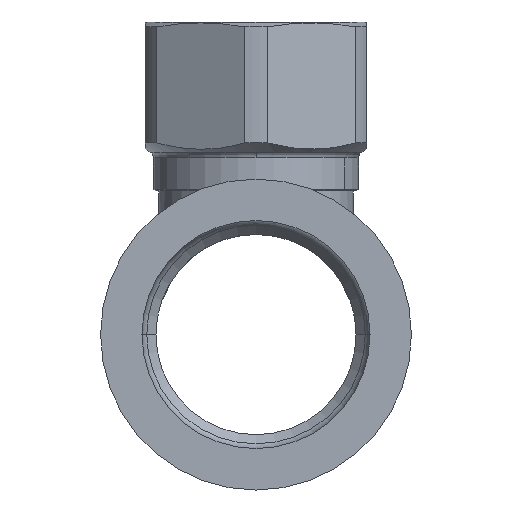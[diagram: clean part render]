
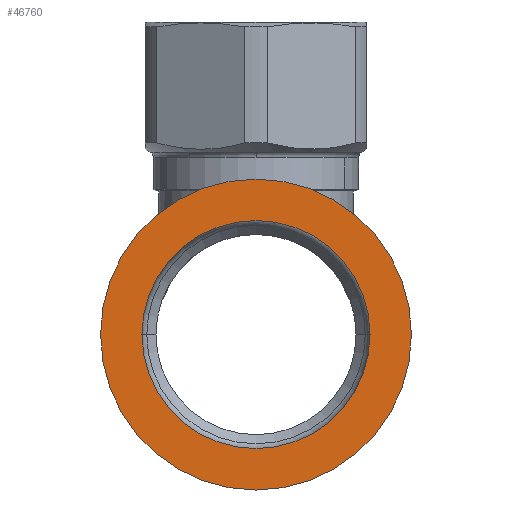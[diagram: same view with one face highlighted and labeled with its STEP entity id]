
A CAD part, left-side view. The second image highlights one B-rep face of the part: STEP entity #46760.
In plain terms, the highlighted planar face has unit normal (-1, 0, 0).
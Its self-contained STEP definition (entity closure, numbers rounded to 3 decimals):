
#46280=CARTESIAN_POINT('',(22.914,53.188,0.)
);
#46290=VERTEX_POINT('',#46280);
#46320=CARTESIAN_POINT('',(22.914,39.288,0.));
#46330=DIRECTION('',(-1.,0.,0.));
#46340=DIRECTION('',(0.,1.,0.));
#46350=AXIS2_PLACEMENT_3D('',#46320,#46330,#46340);
#46360=CIRCLE('',#46350,13.9);
#46370=CARTESIAN_POINT('',(22.914,25.388,0.
));
#46380=VERTEX_POINT('',#46370);
#46390=EDGE_CURVE('',#46380,#46290,#46360,.T.);
#46510=CARTESIAN_POINT('',(22.914,57.963,0.)
);
#46520=DIRECTION('',(-1.,-0.,0.));
#46530=DIRECTION('',(0.,-1.,0.));
#46540=AXIS2_PLACEMENT_3D('',#46510,#46520,#46530);
#46550=PLANE('',#46540);
#46560=EDGE_CURVE('',#46290,#46380,#46360,.T.);
#46570=ORIENTED_EDGE('',*,*,#46560,.F.);
#46580=ORIENTED_EDGE('',*,*,#46390,.F.);
#46590=EDGE_LOOP('',(#46580,#46570));
#46600=FACE_BOUND('',#46590,.T.);
#46610=CARTESIAN_POINT('',(22.914,39.288,0.));
#46620=DIRECTION('',(1.,0.,0.));
#46630=DIRECTION('',(0.,1.,0.));
#46640=AXIS2_PLACEMENT_3D('',#46610,#46620,#46630);
#46650=CIRCLE('',#46640,18.95);
#46660=CARTESIAN_POINT('',(22.914,58.238,0.)
);
#46670=VERTEX_POINT('',#46660);
#46680=CARTESIAN_POINT('',(22.914,20.338,0.
));
#46690=VERTEX_POINT('',#46680);
#46700=EDGE_CURVE('',#46670,#46690,#46650,.T.);
#46710=ORIENTED_EDGE('',*,*,#46700,.F.);
#46720=EDGE_CURVE('',#46690,#46670,#46650,.T.);
#46730=ORIENTED_EDGE('',*,*,#46720,.F.);
#46740=EDGE_LOOP('',(#46730,#46710));
#46750=FACE_OUTER_BOUND('',#46740,.T.);
#46760=ADVANCED_FACE('',(#46600,#46750),#46550,.T.);
